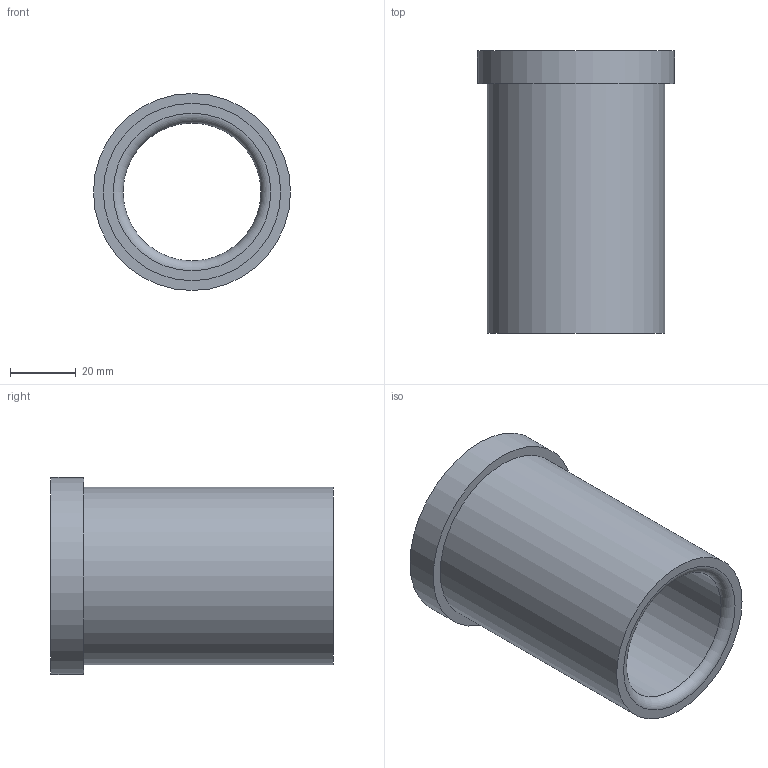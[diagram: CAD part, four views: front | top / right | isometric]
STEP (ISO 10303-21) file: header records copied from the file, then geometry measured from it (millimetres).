
FILE_DESCRIPTION(/* description */ ('STEP AP214'),/* implementation_level */ '2;1');
FILE_NAME(/* name */ '03_12_17866',/* time_stamp */ '2023-06-15T11:35:45+02:00',/* author */ ('License CC BY-ND 4.0'),/* organization */ ('CADENAS'),/* preprocessor_version */ 'ST-DEVELOPER v19.3',/* originating_system */ 'PARTsolutions',/* authorisation */ ' ');
FILE_SCHEMA (('AUTOMOTIVE_DESIGN {1 0 10303 214 3 1 1}'));
Length unit declared in the file: millimetre
Products named in the file (1): VA_Bushing_17866
Bounding box: 60 x 86 x 60 mm (x, y, z)
Volume: 81967.8 mm3; surface area: 28707.7 mm2
Topology: 1 solids, 1 shells, 10 faces, 16 edges, 10 vertices
Faces by surface type: cylinder 4, plane 4, torus 2
Full cylindrical faces by diameter (mm): 42 x1, 42.6 x1, 54 x1, 60 x1
Entity records: 302 total; most frequent: DIRECTION 42, CARTESIAN_POINT 31, AXIS2_PLACEMENT_3D 21, ORIENTED_EDGE 20, EDGE_LOOP 20, FACE_BOUND 20, EDGE_CURVE 10, VERTEX_POINT 10
